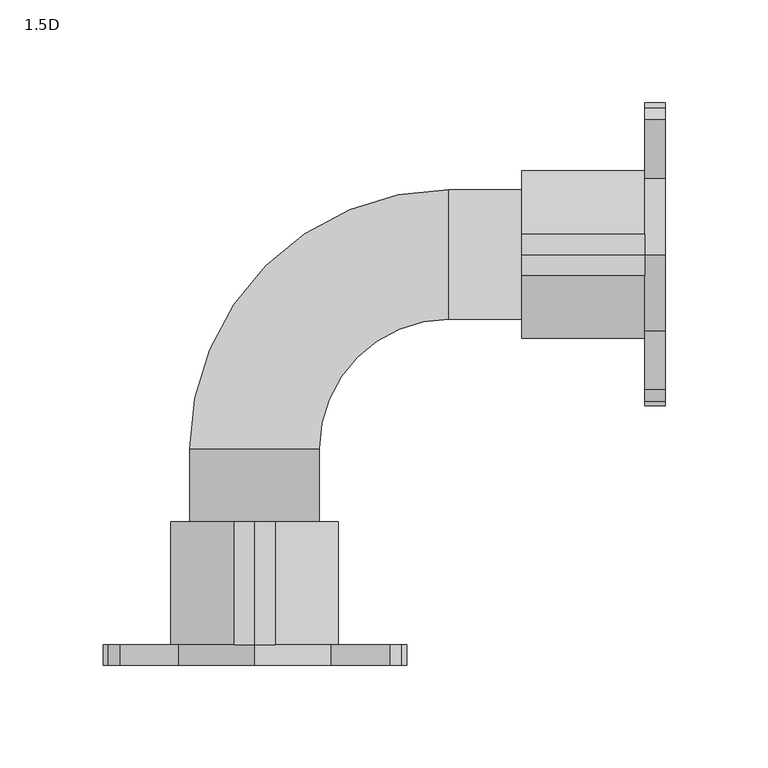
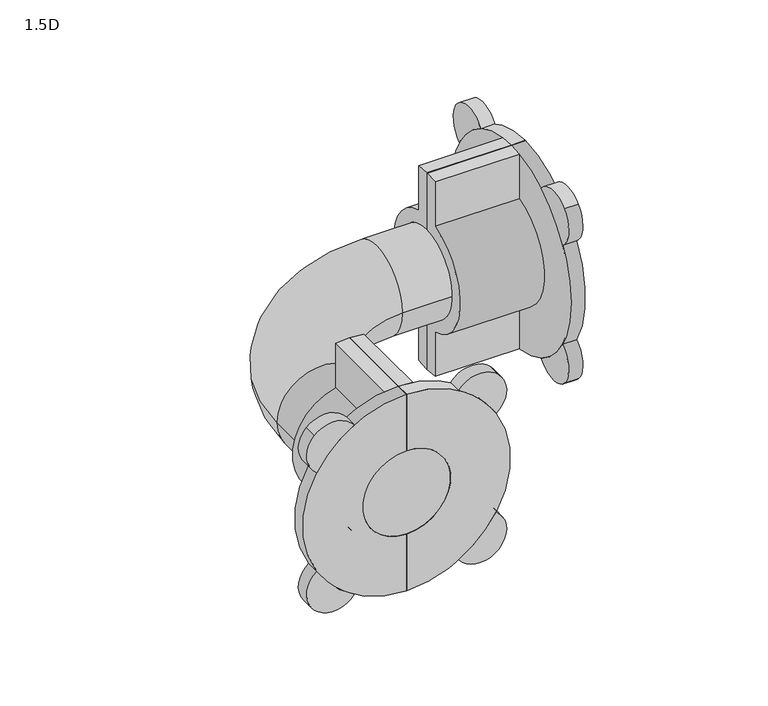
"""IFC4 building model written with IfcOpenShell, lengths in millimetres: pipe fitting geometry, Plumbing-Pipe-Fittings_Pexgol_Elbow-90-with-both-sides-GP-Flange-Couplers : 1.5D."""

from ifc_helpers import new_model, si_unit, point, frame, frame_2d, origin, origin_2d, place, context, project, spatial, polyline, circle_curve, ellipse_curve, trimmed, segment, composite_curve, outline, extrude, source, transform, mapped, element, save
from ifc_brep_helpers import plane_surface, cylinder_surface, revolved_surface, advanced_brep


def pipe_fitting_1_5d_3915571a(model_context):
    return source(origin(), model_context, "Body", "SolidModel", [
        extrude(outline(composite_curve([segment(trimmed(circle_curve(origin_2d(), 74.0), [point((37.2772771, -63.9249921))], [point((63.9249921, -37.2772771))], True, "CARTESIAN"), True, "CONTINUOUS"), segment(trimmed(circle_curve(frame_2d((52.3259018, -52.3259018)), 19.0), [point((63.9249921, -37.2772771))], [point((65.7609307, -65.7609307))], False, "CARTESIAN"), True, "CONTINUOUS"), segment(trimmed(circle_curve(frame_2d((52.3259018, -52.3259018)), 19.0), [point((65.7609307, -65.7609307))], [point((37.2772771, -63.9249921))], False, "CARTESIAN"), True, "CONTINUOUS")], self_intersect=False)), frame((190.0, 0.0, 0.0), z_axis=(1.0, 0.0, 0.0), x_axis=(0.0, 1.0, 0.0)), (0.0, 0.0, 1.0), 10.0),
        extrude(outline(composite_curve([segment(trimmed(circle_curve(origin_2d(), 74.0), [point((-63.9249921, -37.2772771))], [point((-37.2772771, -63.9249921))], True, "CARTESIAN"), True, "CONTINUOUS"), segment(trimmed(circle_curve(frame_2d((-52.3259018, -52.3259018)), 19.0), [point((-37.2772771, -63.9249921))], [point((-65.7609307, -65.7609307))], False, "CARTESIAN"), True, "CONTINUOUS"), segment(trimmed(circle_curve(frame_2d((-52.3259018, -52.3259018)), 19.0), [point((-65.7609307, -65.7609307))], [point((-63.9249921, -37.2772771))], False, "CARTESIAN"), True, "CONTINUOUS")], self_intersect=False)), frame((190.0, 0.0, 0.0), z_axis=(1.0, 0.0, 0.0), x_axis=(0.0, 1.0, 0.0)), (0.0, 0.0, 1.0), 10.0),
        extrude(outline(composite_curve([segment(trimmed(circle_curve(origin_2d(), 74.0), [point((63.9249921, 37.2772771))], [point((37.2772771, 63.9249921))], True, "CARTESIAN"), True, "CONTINUOUS"), segment(trimmed(circle_curve(frame_2d((52.3259018, 52.3259018)), 19.0), [point((37.2772771, 63.9249921))], [point((65.7609307, 65.7609307))], False, "CARTESIAN"), True, "CONTINUOUS"), segment(trimmed(circle_curve(frame_2d((52.3259018, 52.3259018)), 19.0), [point((65.7609307, 65.7609307))], [point((63.9249921, 37.2772771))], False, "CARTESIAN"), True, "CONTINUOUS")], self_intersect=False)), frame((190.0, 0.0, 0.0), z_axis=(1.0, 0.0, 0.0), x_axis=(0.0, 1.0, 0.0)), (0.0, 0.0, 1.0), 10.0),
        extrude(outline(composite_curve([segment(trimmed(circle_curve(origin_2d(), 74.0), [point((-37.2772771, 63.9249921))], [point((-63.9249921, 37.2772771))], True, "CARTESIAN"), True, "CONTINUOUS"), segment(trimmed(circle_curve(frame_2d((-52.3259018, 52.3259018)), 19.0), [point((-63.9249921, 37.2772771))], [point((-65.7609307, 65.7609307))], False, "CARTESIAN"), True, "CONTINUOUS"), segment(trimmed(circle_curve(frame_2d((-52.3259018, 52.3259018)), 19.0), [point((-65.7609307, 65.7609307))], [point((-37.2772771, 63.9249921))], False, "CARTESIAN"), True, "CONTINUOUS")], self_intersect=False)), frame((190.0, 0.0, 0.0), z_axis=(1.0, 0.0, 0.0), x_axis=(0.0, 1.0, 0.0)), (0.0, 0.0, 1.0), 10.0),
        advanced_brep(
        [(130.0, 0.0, -31.5), (130.0, 0.0, 31.5), (130.0, 0.0, 74.0), (130.0, 10.0, 73.3212111), (130.0, 10.0, 39.7617907), (130.0, 10.0, -39.7617907), (130.0, 10.0, -73.3212111), (130.0, 0.0, -74.0), (190.0, 0.0, -31.5), (190.0, 0.0, -74.0), (200.0, 0.0, -74.0), (200.0, 0.0, -31.5), (190.0, 0.0, 31.5), (200.0, 0.0, 31.5), (200.0, 0.0, 74.0), (190.0, 0.0, 74.0), (190.0, 10.0, 39.7617907), (190.0, 10.0, -39.7617907), (190.0, 10.0, 73.3212111), (190.0, 10.0, -73.3212111)],
        [
            (0, 1, circle_curve(frame((130.0, 0.0, 0.0), z_axis=(1.0, 0.0, 0.0), x_axis=(0.0, -1.0, 0.0)), 31.5)),
            (1, 2),
            (2, 3, circle_curve(frame((130.0, 0.0, 0.0), z_axis=(-1.0, 0.0, 0.0), x_axis=(0.0, -1.0, 0.0)), 74.0)),
            (3, 4),
            (4, 5, circle_curve(frame((130.0, 0.0, 0.0), z_axis=(-1.0, 0.0, 0.0), x_axis=(0.0, -1.0, 0.0)), 41.0)),
            (5, 6),
            (6, 7, circle_curve(frame((130.0, 0.0, 0.0), z_axis=(-1.0, 0.0, 0.0), x_axis=(0.0, -1.0, 0.0)), 74.0)),
            (7, 0),
            (8, 0),
            (7, 9),
            (9, 10),
            (10, 11),
            (11, 8),
            (8, 12, circle_curve(frame((190.0, 0.0, 0.0), z_axis=(1.0, 0.0, 0.0), x_axis=(0.0, -1.0, 0.0)), 31.5)),
            (12, 1),
            (12, 13),
            (13, 14),
            (14, 15),
            (15, 2),
            (4, 16),
            (16, 17, circle_curve(frame((190.0, 0.0, 0.0), z_axis=(-1.0, 0.0, 0.0), x_axis=(0.0, -1.0, 0.0)), 41.0)),
            (17, 5),
            (15, 18, circle_curve(frame((190.0, 0.0, 0.0), z_axis=(-1.0, 0.0, 0.0), x_axis=(0.0, -1.0, 0.0)), 74.0)),
            (18, 3),
            (18, 16),
            (6, 19),
            (19, 9, circle_curve(frame((190.0, 0.0, 0.0), z_axis=(-1.0, 0.0, 0.0), x_axis=(0.0, -1.0, 0.0)), 74.0)),
            (17, 19),
            (18, 19, circle_curve(frame((190.0, 0.0, 0.0), z_axis=(-1.0, 0.0, 0.0), x_axis=(0.0, -1.0, 0.0)), 74.0)),
            (10, 14, circle_curve(frame((200.0, 0.0, 0.0), z_axis=(1.0, 0.0, 0.0), x_axis=(0.0, -1.0, 0.0)), 74.0)),
            (13, 11, circle_curve(frame((200.0, 0.0, 0.0), z_axis=(-1.0, 0.0, 0.0), x_axis=(0.0, -1.0, 0.0)), 31.5)),
        ],
        [
            plane_surface(frame((130.0, 0.0, -31.5), z_axis=(-1.0, 0.0, 0.0), x_axis=(0.0, 0.0, 1.0))),
            plane_surface(frame((130.0, 0.0, -41.0), z_axis=(0.0, -1.0, 0.0), x_axis=(1.0, 0.0, 0.0))),
            revolved_surface(polyline([(190.0, -31.5, 0.0), (130.0, -31.5, 0.0)]), (190.0, 0.0, 0.0), (1.0, 0.0, 0.0)),
            plane_surface(frame((130.0, 0.0, 31.5), z_axis=(0.0, -1.0, 0.0), x_axis=(1.0, 0.0, 0.0))),
            cylinder_surface(frame((190.0, 0.0, 0.0), z_axis=(-1.0, 0.0, 0.0), x_axis=(0.0, -1.0, 0.0)), 41.0),
            cylinder_surface(frame((190.0, 0.0, 0.0), z_axis=(-1.0, 0.0, 0.0), x_axis=(0.0, -1.0, 0.0)), 74.0),
            plane_surface(frame((130.0, 10.0, 73.3212111), z_axis=(0.0, 1.0, 0.0), x_axis=(1.0, 0.0, 0.0))),
            plane_surface(frame((130.0, 10.0, -39.7617907), z_axis=(0.0, 1.0, 0.0), x_axis=(1.0, 0.0, 0.0))),
            plane_surface(frame((190.0, 0.0, -31.5), z_axis=(-1.0, 0.0, 0.0), x_axis=(0.0, 0.0, 1.0))),
            plane_surface(frame((200.0, 0.0, -31.5), z_axis=(1.0, 0.0, 0.0), x_axis=(0.0, 0.0, -1.0))),
            revolved_surface(polyline([(200.0, -31.5, 0.0), (190.0, -31.5, 0.0)]), (200.0, 0.0, 0.0), (1.0, 0.0, 0.0)),
            cylinder_surface(frame((200.0, 0.0, 0.0), z_axis=(-1.0, 0.0, 0.0), x_axis=(0.0, -1.0, 0.0)), 74.0),
        ],
        [
            (0, [[1, 2, 3, 4, 5, 6, 7, 8]]),
            (1, [[9, -8, 10, 11, 12, 13]]),
            (2, [[-1, -9, 14, 15]]),
            (3, [[-15, 16, 17, 18, 19, -2]]),
            (4, [[20, 21, 22, -5]]),
            (5, [[-3, -19, 23, 24]]),
            (6, [[-4, -24, 25, -20]]),
            (5, [[-7, 26, 27, -10]]),
            (7, [[-6, -22, 28, -26]]),
            (8, [[29, -28, -21, -25]]),
            (9, [[30, -17, 31, -12]]),
            (10, [[-31, -16, -14, -13]]),
            (11, [[-30, -11, -27, -29, -23, -18]]),
        ],
    ),
        advanced_brep(
        [(130.0, 0.0, 31.5), (130.0, 0.0, -31.5), (130.0, 0.0, -74.0), (130.0, -10.0, -73.3212111), (130.0, -10.0, -39.7617907), (130.0, -10.0, 39.7617907), (130.0, -10.0, 73.3212111), (130.0, 0.0, 74.0), (190.0, 0.0, -31.5), (200.0, 0.0, -31.5), (200.0, 0.0, -74.0), (190.0, 0.0, -74.0), (190.0, 0.0, 31.5), (190.0, 0.0, 74.0), (200.0, 0.0, 74.0), (200.0, 0.0, 31.5), (190.0, -10.0, 39.7617907), (190.0, -10.0, -39.7617907), (190.0, -10.0, 73.3212111), (190.0, -10.0, -73.3212111)],
        [
            (0, 1, circle_curve(frame((130.0, 0.0, 0.0), z_axis=(1.0, 0.0, 0.0), x_axis=(0.0, 1.0, 0.0)), 31.5)),
            (1, 2),
            (2, 3, circle_curve(frame((130.0, 0.0, 0.0), z_axis=(-1.0, 0.0, 0.0), x_axis=(0.0, 1.0, 0.0)), 74.0)),
            (3, 4),
            (4, 5, circle_curve(frame((130.0, 0.0, 0.0), z_axis=(-1.0, 0.0, 0.0), x_axis=(0.0, 1.0, 0.0)), 41.0)),
            (5, 6),
            (6, 7, circle_curve(frame((130.0, 0.0, 0.0), z_axis=(-1.0, 0.0, 0.0), x_axis=(0.0, 1.0, 0.0)), 74.0)),
            (7, 0),
            (1, 8),
            (8, 9),
            (9, 10),
            (10, 11),
            (11, 2),
            (0, 12),
            (12, 8, circle_curve(frame((190.0, 0.0, 0.0), z_axis=(1.0, 0.0, 0.0), x_axis=(0.0, 1.0, 0.0)), 31.5)),
            (7, 13),
            (13, 14),
            (14, 15),
            (15, 12),
            (16, 5),
            (4, 17),
            (17, 16, circle_curve(frame((190.0, 0.0, 0.0), z_axis=(-1.0, 0.0, 0.0), x_axis=(0.0, 1.0, 0.0)), 41.0)),
            (6, 18),
            (18, 13, circle_curve(frame((190.0, 0.0, 0.0), z_axis=(-1.0, 0.0, 0.0), x_axis=(0.0, 1.0, 0.0)), 74.0)),
            (16, 18),
            (11, 19, circle_curve(frame((190.0, 0.0, 0.0), z_axis=(-1.0, 0.0, 0.0), x_axis=(0.0, 1.0, 0.0)), 74.0)),
            (19, 3),
            (19, 17),
            (19, 18, circle_curve(frame((190.0, 0.0, 0.0), z_axis=(-1.0, 0.0, 0.0), x_axis=(0.0, 1.0, 0.0)), 74.0)),
            (9, 15, circle_curve(frame((200.0, 0.0, 0.0), z_axis=(-1.0, 0.0, 0.0), x_axis=(0.0, 1.0, 0.0)), 31.5)),
            (14, 10, circle_curve(frame((200.0, 0.0, 0.0), z_axis=(1.0, 0.0, 0.0), x_axis=(0.0, 1.0, 0.0)), 74.0)),
        ],
        [
            plane_surface(frame((130.0, 41.0, 0.0), z_axis=(-1.0, 0.0, 0.0), x_axis=(0.0, 0.0, -1.0))),
            plane_surface(frame((130.0, 0.0, -31.5), z_axis=(0.0, 1.0, 0.0), x_axis=(1.0, 0.0, 0.0))),
            revolved_surface(polyline([(190.0, 31.5, 0.0), (130.0, 31.5, 0.0)]), (190.0, 0.0, 0.0), (1.0, 0.0, 0.0)),
            plane_surface(frame((130.0, 0.0, 41.0), z_axis=(0.0, 1.0, 0.0), x_axis=(1.0, 0.0, 0.0))),
            cylinder_surface(frame((190.0, 0.0, 0.0), z_axis=(-1.0, 0.0, 0.0), x_axis=(0.0, 1.0, 0.0)), 41.0),
            cylinder_surface(frame((190.0, 0.0, 0.0), z_axis=(-1.0, 0.0, 0.0), x_axis=(0.0, 1.0, 0.0)), 74.0),
            plane_surface(frame((130.0, -10.0, 39.7617907), z_axis=(0.0, -1.0, 0.0), x_axis=(1.0, 0.0, 0.0))),
            plane_surface(frame((130.0, -10.0, -73.3212111), z_axis=(0.0, -1.0, 0.0), x_axis=(1.0, 0.0, 0.0))),
            plane_surface(frame((190.0, 74.0, 0.0), z_axis=(-1.0, 0.0, 0.0), x_axis=(0.0, 0.0, -1.0))),
            plane_surface(frame((200.0, 74.0, 0.0), z_axis=(1.0, 0.0, 0.0), x_axis=(0.0, 0.0, 1.0))),
            revolved_surface(polyline([(200.0, 31.5, 0.0), (190.0, 31.5, 0.0)]), (200.0, 0.0, 0.0), (1.0, 0.0, 0.0)),
            cylinder_surface(frame((200.0, 0.0, 0.0), z_axis=(-1.0, 0.0, 0.0), x_axis=(0.0, 1.0, 0.0)), 74.0),
        ],
        [
            (0, [[1, 2, 3, 4, 5, 6, 7, 8]]),
            (1, [[9, 10, 11, 12, 13, -2]]),
            (2, [[-1, 14, 15, -9]]),
            (3, [[-14, -8, 16, 17, 18, 19]]),
            (4, [[20, -5, 21, 22]]),
            (5, [[-7, 23, 24, -16]]),
            (6, [[-6, -20, 25, -23]]),
            (5, [[-3, -13, 26, 27]]),
            (7, [[-4, -27, 28, -21]]),
            (8, [[29, -25, -22, -28]]),
            (9, [[-11, 30, -18, 31]]),
            (10, [[-30, -10, -15, -19]]),
            (11, [[-31, -17, -24, -29, -26, -12]]),
        ],
    ),
        extrude(outline(composite_curve([segment(trimmed(circle_curve(frame_2d((-52.3259018, 52.3259018)), 19.0), [point((-63.9249921, 37.2772771))], [point((-65.7609307, 65.7609307))], False, "CARTESIAN"), True, "CONTINUOUS"), segment(trimmed(circle_curve(frame_2d((-52.3259018, 52.3259018)), 19.0), [point((-65.7609307, 65.7609307))], [point((-37.2772771, 63.9249921))], False, "CARTESIAN"), True, "CONTINUOUS"), segment(trimmed(circle_curve(origin_2d(), 74.0), [point((-37.2772771, 63.9249921))], [point((-63.9249921, 37.2772771))], True, "CARTESIAN"), True, "CONTINUOUS")], self_intersect=False)), frame((0.0, -200.0, 0.0), z_axis=(0.0, 1.0, 0.0), x_axis=(0.0, 0.0, 1.0)), (0.0, 0.0, 1.0), 10.0),
        extrude(outline(composite_curve([segment(trimmed(circle_curve(frame_2d((-52.3259018, -52.3259018)), 19.0), [point((-37.2772771, -63.9249921))], [point((-65.7609307, -65.7609307))], False, "CARTESIAN"), True, "CONTINUOUS"), segment(trimmed(circle_curve(frame_2d((-52.3259018, -52.3259018)), 19.0), [point((-65.7609307, -65.7609307))], [point((-63.9249921, -37.2772771))], False, "CARTESIAN"), True, "CONTINUOUS"), segment(trimmed(circle_curve(origin_2d(), 74.0), [point((-63.9249921, -37.2772771))], [point((-37.2772771, -63.9249921))], True, "CARTESIAN"), True, "CONTINUOUS")], self_intersect=False)), frame((0.0, -200.0, 0.0), z_axis=(0.0, 1.0, 0.0), x_axis=(0.0, 0.0, 1.0)), (0.0, 0.0, 1.0), 10.0),
        extrude(outline(composite_curve([segment(trimmed(circle_curve(frame_2d((52.3259018, 52.3259018)), 19.0), [point((37.2772771, 63.9249921))], [point((65.7609307, 65.7609307))], False, "CARTESIAN"), True, "CONTINUOUS"), segment(trimmed(circle_curve(frame_2d((52.3259018, 52.3259018)), 19.0), [point((65.7609307, 65.7609307))], [point((63.9249921, 37.2772771))], False, "CARTESIAN"), True, "CONTINUOUS"), segment(trimmed(circle_curve(origin_2d(), 74.0), [point((63.9249921, 37.2772771))], [point((37.2772771, 63.9249921))], True, "CARTESIAN"), True, "CONTINUOUS")], self_intersect=False)), frame((0.0, -200.0, 0.0), z_axis=(0.0, 1.0, 0.0), x_axis=(0.0, 0.0, 1.0)), (0.0, 0.0, 1.0), 10.0),
        extrude(outline(composite_curve([segment(trimmed(circle_curve(frame_2d((52.3259018, -52.3259018)), 19.0), [point((63.9249921, -37.2772771))], [point((65.7609307, -65.7609307))], False, "CARTESIAN"), True, "CONTINUOUS"), segment(trimmed(circle_curve(frame_2d((52.3259018, -52.3259018)), 19.0), [point((65.7609307, -65.7609307))], [point((37.2772771, -63.9249921))], False, "CARTESIAN"), True, "CONTINUOUS"), segment(trimmed(circle_curve(origin_2d(), 74.0), [point((37.2772771, -63.9249921))], [point((63.9249921, -37.2772771))], True, "CARTESIAN"), True, "CONTINUOUS")], self_intersect=False)), frame((0.0, -200.0, 0.0), z_axis=(0.0, 1.0, 0.0), x_axis=(0.0, 0.0, 1.0)), (0.0, 0.0, 1.0), 10.0),
        advanced_brep(
        [(0.0, -130.0, -31.5), (0.0, -130.0, 31.5), (0.0, -130.0, 74.0), (10.0, -130.0, 73.3212111), (10.0, -130.0, 39.7617907), (10.0, -130.0, -39.7617907), (10.0, -130.0, -73.3212111), (0.0, -130.0, -74.0), (0.0, -190.0, -31.5), (0.0, -190.0, -74.0), (0.0, -200.0, -74.0), (0.0, -200.0, -31.5), (0.0, -190.0, 31.5), (0.0, -200.0, 31.5), (0.0, -200.0, 74.0), (0.0, -190.0, 74.0), (10.0, -190.0, 39.7617907), (10.0, -190.0, -39.7617907), (10.0, -190.0, 73.3212111), (10.0, -190.0, -73.3212111)],
        [
            (0, 1, circle_curve(frame((0.0, -130.0, 0.0), z_axis=(0.0, -1.0, 0.0), x_axis=(-1.0, 0.0, 0.0)), 31.5)),
            (1, 2),
            (2, 3, circle_curve(frame((0.0, -130.0, 0.0), z_axis=(0.0, 1.0, 0.0), x_axis=(-1.0, 0.0, 0.0)), 74.0)),
            (3, 4),
            (4, 5, circle_curve(frame((0.0, -130.0, 0.0), z_axis=(0.0, 1.0, 0.0), x_axis=(-1.0, 0.0, 0.0)), 41.0)),
            (5, 6),
            (6, 7, circle_curve(frame((0.0, -130.0, 0.0), z_axis=(0.0, 1.0, 0.0), x_axis=(-1.0, 0.0, 0.0)), 74.0)),
            (7, 0),
            (8, 0),
            (7, 9),
            (9, 10),
            (10, 11),
            (11, 8),
            (8, 12, circle_curve(frame((0.0, -190.0, 0.0), z_axis=(0.0, -1.0, 0.0), x_axis=(-1.0, 0.0, 0.0)), 31.5)),
            (12, 1),
            (12, 13),
            (13, 14),
            (14, 15),
            (15, 2),
            (4, 16),
            (16, 17, circle_curve(frame((0.0, -190.0, 0.0), z_axis=(0.0, 1.0, 0.0), x_axis=(-1.0, 0.0, 0.0)), 41.0)),
            (17, 5),
            (15, 18, circle_curve(frame((0.0, -190.0, 0.0), z_axis=(0.0, 1.0, 0.0), x_axis=(-1.0, 0.0, 0.0)), 74.0)),
            (18, 3),
            (18, 16),
            (6, 19),
            (19, 9, circle_curve(frame((0.0, -190.0, 0.0), z_axis=(0.0, 1.0, 0.0), x_axis=(-1.0, 0.0, 0.0)), 74.0)),
            (17, 19),
            (18, 19, circle_curve(frame((0.0, -190.0, 0.0), z_axis=(0.0, 1.0, 0.0), x_axis=(-1.0, 0.0, 0.0)), 74.0)),
            (10, 14, circle_curve(frame((0.0, -200.0, 0.0), z_axis=(0.0, -1.0, 0.0), x_axis=(-1.0, 0.0, 0.0)), 74.0)),
            (13, 11, circle_curve(frame((0.0, -200.0, 0.0), z_axis=(0.0, 1.0, 0.0), x_axis=(-1.0, 0.0, 0.0)), 31.5)),
        ],
        [
            plane_surface(frame((0.0, -130.0, -31.5), z_axis=(0.0, 1.0, 0.0), x_axis=(0.0, 0.0, 1.0))),
            plane_surface(frame((0.0, -130.0, -41.0), z_axis=(-1.0, 0.0, 0.0), x_axis=(0.0, -1.0, 0.0))),
            revolved_surface(polyline([(-31.5, -190.0, 0.0), (-31.5, -130.0, 0.0)]), (0.0, -190.0, 0.0), (0.0, -1.0, 0.0)),
            plane_surface(frame((0.0, -130.0, 31.5), z_axis=(-1.0, 0.0, 0.0), x_axis=(0.0, -1.0, 0.0))),
            cylinder_surface(frame((0.0, -190.0, 0.0), z_axis=(0.0, 1.0, 0.0), x_axis=(-1.0, 0.0, 0.0)), 41.0),
            cylinder_surface(frame((0.0, -190.0, 0.0), z_axis=(0.0, 1.0, 0.0), x_axis=(-1.0, 0.0, 0.0)), 74.0),
            plane_surface(frame((10.0, -130.0, 73.3212111), z_axis=(1.0, 0.0, 0.0), x_axis=(0.0, -1.0, 0.0))),
            plane_surface(frame((10.0, -130.0, -39.7617907), z_axis=(1.0, 0.0, 0.0), x_axis=(0.0, -1.0, 0.0))),
            plane_surface(frame((0.0, -190.0, -31.5), z_axis=(0.0, 1.0, 0.0), x_axis=(0.0, 0.0, 1.0))),
            plane_surface(frame((0.0, -200.0, -31.5), z_axis=(0.0, -1.0, 0.0), x_axis=(0.0, 0.0, -1.0))),
            revolved_surface(polyline([(-31.5, -200.0, 0.0), (-31.5, -190.0, 0.0)]), (0.0, -200.0, 0.0), (0.0, -1.0, 0.0)),
            cylinder_surface(frame((0.0, -200.0, 0.0), z_axis=(0.0, 1.0, 0.0), x_axis=(-1.0, 0.0, 0.0)), 74.0),
        ],
        [
            (0, [[1, 2, 3, 4, 5, 6, 7, 8]]),
            (1, [[9, -8, 10, 11, 12, 13]]),
            (2, [[-1, -9, 14, 15]]),
            (3, [[-15, 16, 17, 18, 19, -2]]),
            (4, [[20, 21, 22, -5]]),
            (5, [[-3, -19, 23, 24]]),
            (6, [[-4, -24, 25, -20]]),
            (5, [[-7, 26, 27, -10]]),
            (7, [[-6, -22, 28, -26]]),
            (8, [[29, -28, -21, -25]]),
            (9, [[30, -17, 31, -12]]),
            (10, [[-31, -16, -14, -13]]),
            (11, [[-30, -11, -27, -29, -23, -18]]),
        ],
    ),
        advanced_brep(
        [(0.0, -130.0, 31.5), (0.0, -130.0, -31.5), (0.0, -130.0, -74.0), (-10.0, -130.0, -73.3212111), (-10.0, -130.0, -39.7617907), (-10.0, -130.0, 39.7617907), (-10.0, -130.0, 73.3212111), (0.0, -130.0, 74.0), (0.0, -190.0, -31.5), (0.0, -200.0, -31.5), (0.0, -200.0, -74.0), (0.0, -190.0, -74.0), (0.0, -190.0, 31.5), (0.0, -190.0, 74.0), (0.0, -200.0, 74.0), (0.0, -200.0, 31.5), (-10.0, -190.0, 39.7617907), (-10.0, -190.0, -39.7617907), (-10.0, -190.0, 73.3212111), (-10.0, -190.0, -73.3212111)],
        [
            (0, 1, circle_curve(frame((0.0, -130.0, 0.0), z_axis=(0.0, -1.0, 0.0), x_axis=(1.0, 0.0, 0.0)), 31.5)),
            (1, 2),
            (2, 3, circle_curve(frame((0.0, -130.0, 0.0), z_axis=(0.0, 1.0, 0.0), x_axis=(1.0, 0.0, 0.0)), 74.0)),
            (3, 4),
            (4, 5, circle_curve(frame((0.0, -130.0, 0.0), z_axis=(0.0, 1.0, 0.0), x_axis=(1.0, 0.0, 0.0)), 41.0)),
            (5, 6),
            (6, 7, circle_curve(frame((0.0, -130.0, 0.0), z_axis=(0.0, 1.0, 0.0), x_axis=(1.0, 0.0, 0.0)), 74.0)),
            (7, 0),
            (1, 8),
            (8, 9),
            (9, 10),
            (10, 11),
            (11, 2),
            (0, 12),
            (12, 8, circle_curve(frame((0.0, -190.0, 0.0), z_axis=(0.0, -1.0, 0.0), x_axis=(1.0, 0.0, 0.0)), 31.5)),
            (7, 13),
            (13, 14),
            (14, 15),
            (15, 12),
            (16, 5),
            (4, 17),
            (17, 16, circle_curve(frame((0.0, -190.0, 0.0), z_axis=(0.0, 1.0, 0.0), x_axis=(1.0, 0.0, 0.0)), 41.0)),
            (6, 18),
            (18, 13, circle_curve(frame((0.0, -190.0, 0.0), z_axis=(0.0, 1.0, 0.0), x_axis=(1.0, 0.0, 0.0)), 74.0)),
            (16, 18),
            (11, 19, circle_curve(frame((0.0, -190.0, 0.0), z_axis=(0.0, 1.0, 0.0), x_axis=(1.0, 0.0, 0.0)), 74.0)),
            (19, 3),
            (19, 17),
            (19, 18, circle_curve(frame((0.0, -190.0, 0.0), z_axis=(0.0, 1.0, 0.0), x_axis=(1.0, 0.0, 0.0)), 74.0)),
            (9, 15, circle_curve(frame((0.0, -200.0, 0.0), z_axis=(0.0, 1.0, 0.0), x_axis=(1.0, 0.0, 0.0)), 31.5)),
            (14, 10, circle_curve(frame((0.0, -200.0, 0.0), z_axis=(0.0, -1.0, 0.0), x_axis=(1.0, 0.0, 0.0)), 74.0)),
        ],
        [
            plane_surface(frame((41.0, -130.0, 0.0), z_axis=(0.0, 1.0, 0.0), x_axis=(0.0, 0.0, -1.0))),
            plane_surface(frame((0.0, -130.0, -31.5), z_axis=(1.0, 0.0, 0.0), x_axis=(0.0, -1.0, 0.0))),
            revolved_surface(polyline([(31.5, -190.0, 0.0), (31.5, -130.0, 0.0)]), (0.0, -190.0, 0.0), (0.0, -1.0, 0.0)),
            plane_surface(frame((0.0, -130.0, 41.0), z_axis=(1.0, 0.0, 0.0), x_axis=(0.0, -1.0, 0.0))),
            cylinder_surface(frame((0.0, -190.0, 0.0), z_axis=(0.0, 1.0, 0.0), x_axis=(1.0, 0.0, 0.0)), 41.0),
            cylinder_surface(frame((0.0, -190.0, 0.0), z_axis=(0.0, 1.0, 0.0), x_axis=(1.0, 0.0, 0.0)), 74.0),
            plane_surface(frame((-10.0, -130.0, 39.7617907), z_axis=(-1.0, 0.0, 0.0), x_axis=(0.0, -1.0, 0.0))),
            plane_surface(frame((-10.0, -130.0, -73.3212111), z_axis=(-1.0, 0.0, 0.0), x_axis=(0.0, -1.0, 0.0))),
            plane_surface(frame((74.0, -190.0, 0.0), z_axis=(0.0, 1.0, 0.0), x_axis=(0.0, 0.0, -1.0))),
            plane_surface(frame((74.0, -200.0, 0.0), z_axis=(0.0, -1.0, 0.0), x_axis=(0.0, 0.0, 1.0))),
            revolved_surface(polyline([(31.5, -200.0, 0.0), (31.5, -190.0, 0.0)]), (0.0, -200.0, 0.0), (0.0, -1.0, 0.0)),
            cylinder_surface(frame((0.0, -200.0, 0.0), z_axis=(0.0, 1.0, 0.0), x_axis=(1.0, 0.0, 0.0)), 74.0),
        ],
        [
            (0, [[1, 2, 3, 4, 5, 6, 7, 8]]),
            (1, [[9, 10, 11, 12, 13, -2]]),
            (2, [[-1, 14, 15, -9]]),
            (3, [[-14, -8, 16, 17, 18, 19]]),
            (4, [[20, -5, 21, 22]]),
            (5, [[-7, 23, 24, -16]]),
            (6, [[-6, -20, 25, -23]]),
            (5, [[-3, -13, 26, 27]]),
            (7, [[-4, -27, 28, -21]]),
            (8, [[29, -25, -22, -28]]),
            (9, [[-11, 30, -18, 31]]),
            (10, [[-30, -10, -15, -19]]),
            (11, [[-31, -17, -24, -29, -26, -12]]),
        ],
    ),
        advanced_brep(
        [(200.0, 31.5, 0.0), (200.0, -31.5, 0.0), (94.5, 31.5, 0.0), (94.5, -31.5, 0.0), (31.5, -94.5, 0.0), (-31.5, -94.5, 0.0), (-31.5, -200.0, 0.0), (31.5, -200.0, 0.0)],
        [
            (0, 1, circle_curve(frame((200.0, 0.0, 0.0), z_axis=(1.0, 0.0, 0.0), x_axis=(0.0, -1.0, 0.0)), 31.5)),
            (1, 0, circle_curve(frame((200.0, 0.0, 0.0), z_axis=(1.0, 0.0, 0.0), x_axis=(0.0, -1.0, 0.0)), 31.5)),
            (0, 2),
            (2, 3, circle_curve(frame((94.5, 0.0, 0.0), z_axis=(1.0, 0.0, 0.0), x_axis=(0.0, -1.0, 0.0)), 31.5)),
            (3, 1),
            (3, 2, circle_curve(frame((94.5, 0.0, 0.0), z_axis=(1.0, 0.0, 0.0), x_axis=(0.0, -1.0, 0.0)), 31.5)),
            (4, 3, circle_curve(frame((94.5, -94.5, 0.0), z_axis=(0.0, 0.0, -1.0), x_axis=(0.0, 1.0, 0.0)), 63.0)),
            (2, 5, circle_curve(frame((94.5, -94.5, 0.0), z_axis=(0.0, 0.0, 1.0), x_axis=(0.0, 1.0, 0.0)), 126.0)),
            (5, 4, circle_curve(frame((0.0, -94.5, 0.0), z_axis=(0.0, 1.0, 0.0), x_axis=(1.0, 0.0, 0.0)), 31.5)),
            (4, 5, circle_curve(frame((0.0, -94.5, 0.0), z_axis=(0.0, 1.0, 0.0), x_axis=(1.0, 0.0, 0.0)), 31.5)),
            (6, 7, circle_curve(frame((0.0, -200.0, 0.0), z_axis=(0.0, -1.0, 0.0), x_axis=(1.0, 0.0, 0.0)), 31.5)),
            (7, 6, circle_curve(frame((0.0, -200.0, 0.0), z_axis=(0.0, -1.0, 0.0), x_axis=(1.0, 0.0, 0.0)), 31.5)),
            (5, 6),
            (7, 4),
        ],
        [
            plane_surface(frame((200.0, 0.0, 0.0), z_axis=(1.0, 0.0, 0.0), x_axis=(0.0, 0.0, 1.0))),
            cylinder_surface(frame((200.0, 0.0, 0.0), z_axis=(1.0, 0.0, 0.0), x_axis=(0.0, -1.0, 0.0)), 31.5),
            revolved_surface(trimmed(ellipse_curve(frame((94.5, 0.0, 0.0), z_axis=(1.0, 0.0, 0.0), x_axis=(0.0, -1.0, 0.0)), 31.5, 31.5), [point((94.5, 31.5, 0.0))], [point((94.5, -31.5, 0.0))], True, "CARTESIAN"), (94.5, -94.5, 0.0), (0.0, 0.0, 1.0)),
            revolved_surface(trimmed(ellipse_curve(frame((94.5, 0.0, 0.0), z_axis=(1.0, 0.0, 0.0), x_axis=(0.0, -1.0, 0.0)), 31.5, 31.5), [point((94.5, -31.5, 0.0))], [point((94.5, 31.5, 0.0))], True, "CARTESIAN"), (94.5, -94.5, 0.0), (0.0, 0.0, 1.0)),
            plane_surface(frame((0.0, -200.0, 0.0), z_axis=(0.0, -1.0, 0.0), x_axis=(0.0, 0.0, 1.0))),
            cylinder_surface(frame((0.0, -94.5, 0.0), z_axis=(0.0, 1.0, 0.0), x_axis=(1.0, 0.0, 0.0)), 31.5),
        ],
        [
            (0, [[1, 2]]),
            (1, [[-1, 3, 4, 5]]),
            (1, [[-2, -5, 6, -3]]),
            (2, [[7, -4, 8, 9]]),
            (3, [[-8, -6, -7, 10]]),
            (4, [[11, 12]]),
            (5, [[-9, 13, -12, 14]]),
            (5, [[-10, -14, -11, -13]]),
        ],
    ),
    ])


if __name__ == "__main__":
    model = new_model("IFC4")
    model_context = context("Model", 3, world=origin())
    ifc_project = project(units=[si_unit("LENGTHUNIT", "METRE", prefix="MILLI")], contexts=[model_context])
    site = spatial("IfcSite", under=ifc_project)
    building = spatial("IfcBuilding", under=site)
    placement = place(None, origin())
    pipe_fitting_1_5d_shape = pipe_fitting_1_5d_3915571a(model_context)
    element("IfcPipeFitting", 1, ObjectType="Plumbing-Pipe-Fittings_Pexgol_Elbow-90-with-both-sides-GP-Flange-Couplers : 1.5D", at=placement, inside=building, context=model_context, shape_type="MappedRepresentation", body=[
        mapped(pipe_fitting_1_5d_shape, transform((0.0, 0.0, 0.0), x_axis=(1.0, 0.0, 0.0), y_axis=(0.0, 1.0, 0.0), z_axis=(0.0, 0.0, 1.0))),
    ])
    save(model, "model.ifc")
